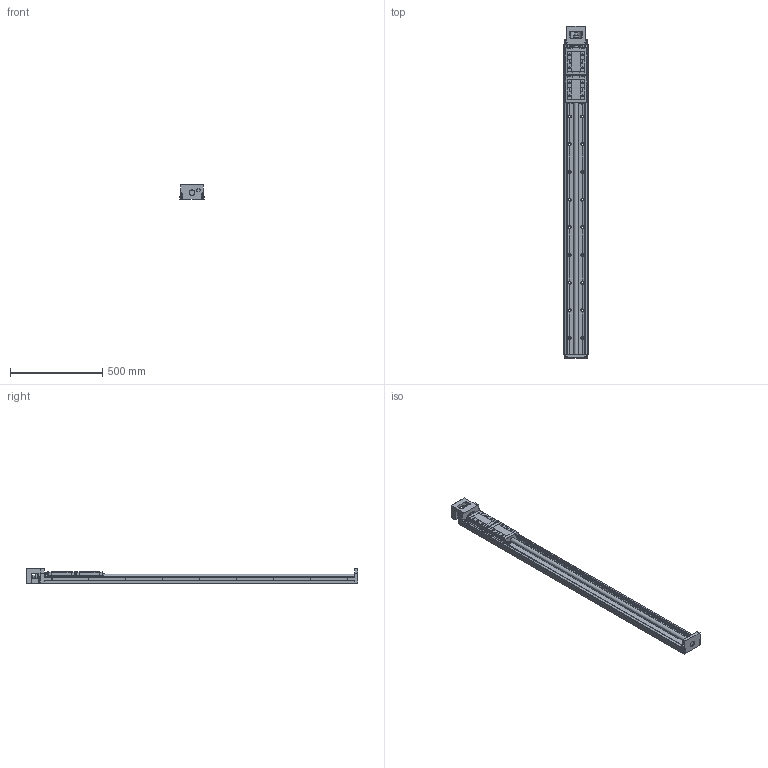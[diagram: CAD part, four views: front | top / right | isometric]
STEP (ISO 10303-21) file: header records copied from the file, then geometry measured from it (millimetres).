
FILE_DESCRIPTION(('no description'),'unknown implementation level');
FILE_NAME('KK13025P1680A2F0000_FILE_13.stp',' ',('HIWIN GmbH'),('CADClick - KiM GmbH - www.kimweb.de'),'unknown preprocess','ACIS','unknown authorization');
FILE_SCHEMA(('automotive_design'));
Length unit declared in the file: millimetre
Products named in the file (3): KK13025P1680A2F0000_FILE_1; KK130_FILE; KK13025P1680A2F0000_FILE
Bounding box: 130 x 1798 x 83 mm (x, y, z)
Volume: 7124809 mm3; surface area: 1017895.3 mm2
Topology: 3 solids, 13 shells, 1116 faces, 2774 edges, 1788 vertices
Faces by surface type: plane 678, cylinder 382, torus 44, cone 8, sphere 4
Entity records: 65246 total; most frequent: DIRECTION 5972, CARTESIAN_POINT 5893, STYLED_ITEM 5677, PRESENTATION_STYLE_ASSIGNMENT 5677, COLOUR_RGB 5677, ORIENTED_EDGE 5540, EDGE_CURVE 2770, CURVE_STYLE 2770
